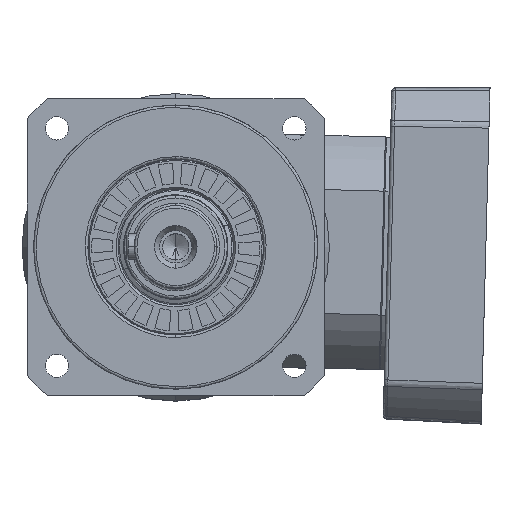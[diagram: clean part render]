
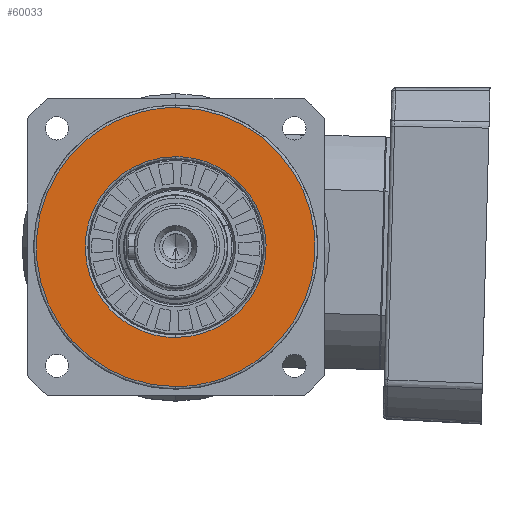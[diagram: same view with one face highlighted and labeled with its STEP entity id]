
A CAD part, top view. The second image highlights one B-rep face of the part: STEP entity #60033.
In plain terms, the highlighted planar face has unit normal (0, 0, 1) as drawn and (0, 0, -1) by its records, which use the part's own axes.
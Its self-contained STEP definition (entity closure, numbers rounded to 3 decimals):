
#3400 = DIRECTION ( 'NONE',  ( 0., 0., 1. ) ) ;
#6868 = CARTESIAN_POINT ( 'NONE',  ( 54., 0., 0. ) ) ;
#6985 = CARTESIAN_POINT ( 'NONE',  ( 54., -108., 0. ) ) ;
#7304 = CARTESIAN_POINT ( 'NONE',  ( -54., 0., 0. ) ) ;
#7600 = CARTESIAN_POINT ( 'NONE',  ( -35., -70., 0. ) ) ;
#8284 = VERTEX_POINT ( 'NONE', #86411 ) ;
#8531 = CARTESIAN_POINT ( 'NONE',  ( 54., 0., 0. ) ) ;
#9314 = ORIENTED_EDGE ( 'NONE', *, *, #92570, .F. ) ;
#10058 = EDGE_CURVE ( 'NONE', #8284, #63906, #96214, .T. ) ;
#12049 = CARTESIAN_POINT ( 'NONE',  ( -54., -108., 0. ) ) ;
#13164 = VERTEX_POINT ( 'NONE', #38168 ) ;
#14291 = CARTESIAN_POINT ( 'NONE',  ( 35., -70., 0. ) ) ;
#16184 = CARTESIAN_POINT ( 'NONE',  ( 54., 108., 0. ) ) ;
#17088 =( BOUNDED_CURVE ( )  B_SPLINE_CURVE ( 3, ( #45218, #14291, #7600, #60347 ),
 .UNSPECIFIED., .F., .F. ) 
 B_SPLINE_CURVE_WITH_KNOTS ( ( 4, 4 ),
 ( 0., 1. ),
 .UNSPECIFIED. ) 
 CURVE ( )  GEOMETRIC_REPRESENTATION_ITEM ( )  RATIONAL_B_SPLINE_CURVE ( ( 1., 0.333, 0.333, 1. ) ) 
 REPRESENTATION_ITEM ( '' )  );
#18137 = FACE_BOUND ( 'NONE', #81438, .T. ) ;
#18406 = PLANE ( 'NONE',  #66539 ) ;
#19876 = CARTESIAN_POINT ( 'NONE',  ( 35., 0., 0. ) ) ;
#19961 = CARTESIAN_POINT ( 'NONE',  ( 35., 70., 0. ) ) ;
#22166 = CARTESIAN_POINT ( 'NONE',  ( -35., 0., 0. ) ) ;
#23107 = CARTESIAN_POINT ( 'NONE',  ( -35., 70., 0. ) ) ;
#23832 = CARTESIAN_POINT ( 'NONE',  ( -54., 0., 0. ) ) ;
#27769 =( BOUNDED_CURVE ( )  B_SPLINE_CURVE ( 3, ( #8531, #16184, #68738, #23832 ),
 .UNSPECIFIED., .F., .F. ) 
 B_SPLINE_CURVE_WITH_KNOTS ( ( 4, 4 ),
 ( 0., 1. ),
 .UNSPECIFIED. ) 
 CURVE ( )  GEOMETRIC_REPRESENTATION_ITEM ( )  RATIONAL_B_SPLINE_CURVE ( ( 1., 0.333, 0.333, 1. ) ) 
 REPRESENTATION_ITEM ( '' )  );
#31495 = EDGE_CURVE ( 'NONE', #13164, #61013, #70922, .T. ) ;
#38168 = CARTESIAN_POINT ( 'NONE',  ( -54., 0., 0. ) ) ;
#45218 = CARTESIAN_POINT ( 'NONE',  ( 35., 0., 0. ) ) ;
#48608 = CARTESIAN_POINT ( 'NONE',  ( 0., 0., 0. ) ) ;
#55009 = ORIENTED_EDGE ( 'NONE', *, *, #73261, .F. ) ;
#56168 = DIRECTION ( 'NONE',  ( 1., 0., 0. ) ) ;
#58109 = FACE_OUTER_BOUND ( 'NONE', #71003, .T. ) ;
#60033 = ADVANCED_FACE ( 'NONE', ( #58109, #18137 ), #18406, .F. ) ;
#60347 = CARTESIAN_POINT ( 'NONE',  ( -35., 0., 0. ) ) ;
#60863 = ORIENTED_EDGE ( 'NONE', *, *, #31495, .F. ) ;
#61013 = VERTEX_POINT ( 'NONE', #87425 ) ;
#63906 = VERTEX_POINT ( 'NONE', #87173 ) ;
#66539 = AXIS2_PLACEMENT_3D ( 'NONE', #48608, #3400, #56168 ) ;
#68738 = CARTESIAN_POINT ( 'NONE',  ( -54., 108., 0. ) ) ;
#70922 =( BOUNDED_CURVE ( )  B_SPLINE_CURVE ( 3, ( #7304, #12049, #6985, #6868 ),
 .UNSPECIFIED., .F., .F. ) 
 B_SPLINE_CURVE_WITH_KNOTS ( ( 4, 4 ),
 ( 0., 1. ),
 .UNSPECIFIED. ) 
 CURVE ( )  GEOMETRIC_REPRESENTATION_ITEM ( )  RATIONAL_B_SPLINE_CURVE ( ( 1., 0.333, 0.333, 1. ) ) 
 REPRESENTATION_ITEM ( '' )  );
#71003 = EDGE_LOOP ( 'NONE', ( #60863, #9314 ) ) ;
#73261 = EDGE_CURVE ( 'NONE', #63906, #8284, #17088, .T. ) ;
#81438 = EDGE_LOOP ( 'NONE', ( #55009, #88551 ) ) ;
#86411 = CARTESIAN_POINT ( 'NONE',  ( -35., 0., 0. ) ) ;
#87173 = CARTESIAN_POINT ( 'NONE',  ( 35., 0., 0. ) ) ;
#87425 = CARTESIAN_POINT ( 'NONE',  ( 54., 0., 0. ) ) ;
#88551 = ORIENTED_EDGE ( 'NONE', *, *, #10058, .F. ) ;
#92570 = EDGE_CURVE ( 'NONE', #61013, #13164, #27769, .T. ) ;
#96214 =( BOUNDED_CURVE ( )  B_SPLINE_CURVE ( 3, ( #22166, #23107, #19961, #19876 ),
 .UNSPECIFIED., .F., .T. ) 
 B_SPLINE_CURVE_WITH_KNOTS ( ( 4, 4 ),
 ( 0., 1. ),
 .UNSPECIFIED. ) 
 CURVE ( )  GEOMETRIC_REPRESENTATION_ITEM ( )  RATIONAL_B_SPLINE_CURVE ( ( 1., 0.333, 0.333, 1. ) ) 
 REPRESENTATION_ITEM ( '' )  );
